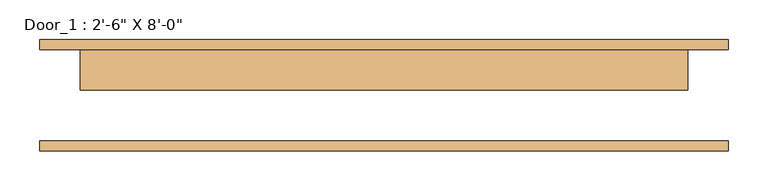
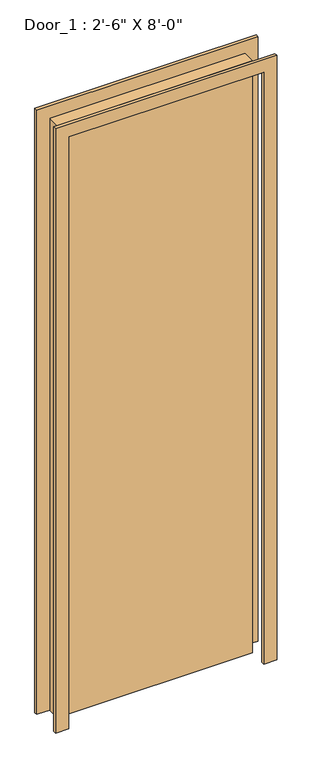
"""IFC4 building model written with IfcOpenShell, lengths in millimetres: door geometry."""

from ifc_helpers import new_model, si_unit, frame, origin, origin_with_axes, place, context, project, spatial, polyline, outline, extrude, source, transform, mapped, element, save


def door_8ee43d1d(model_context):
    return source(origin(), model_context, "Body", "SweptSolid", [
        extrude(outline(polyline([(2489.2, -431.8), (0.0, -431.8), (0.0, -381.0), (2438.4, -381.0), (2438.4, 381.0), (0.0, 381.0), (0.0, 431.8), (2489.2, 431.8), (2489.2, -431.8)])), frame((0.0, 57.15, 0.0), z_axis=(0.0, 1.0, 0.0), x_axis=(0.0, 0.0, 1.0)), (0.0, 0.0, 1.0), 12.7),
        extrude(outline(polyline([(2489.2, 431.8), (2489.2, -431.8), (0.0, -431.8), (0.0, -381.0), (2438.4, -381.0), (2438.4, 381.0), (0.0, 381.0), (0.0, 431.8), (2489.2, 431.8)])), frame((0.0, -69.85, 0.0), z_axis=(0.0, 1.0, 0.0), x_axis=(0.0, 0.0, 1.0)), (0.0, 0.0, 1.0), 12.7),
        extrude(outline(polyline([(381.0, 6.35), (-381.0, 6.35), (-381.0, 57.15), (381.0, 57.15), (381.0, 6.35)])), origin_with_axes(), (0.0, 0.0, 1.0), 2438.4),
    ])


if __name__ == "__main__":
    model = new_model("IFC4")
    model_context = context("Model", 3, world=origin())
    ifc_project = project(units=[si_unit("LENGTHUNIT", "METRE", prefix="MILLI")], contexts=[model_context])
    site = spatial("IfcSite", under=ifc_project)
    building = spatial("IfcBuilding", under=site)
    placement = place(None, origin())
    door_shape = door_8ee43d1d(model_context)
    element("IfcDoor", 1, ObjectType="Door_1 : 2'-6\" X 8'-0\"", at=placement, inside=building, context=model_context, shape_type="MappedRepresentation", body=[
        mapped(door_shape, transform((0.0, 0.0, 0.0), x_axis=(1.0, 0.0, 0.0), y_axis=(0.0, 1.0, 0.0), z_axis=(0.0, 0.0, 1.0))),
    ])
    save(model, "model.ifc")
